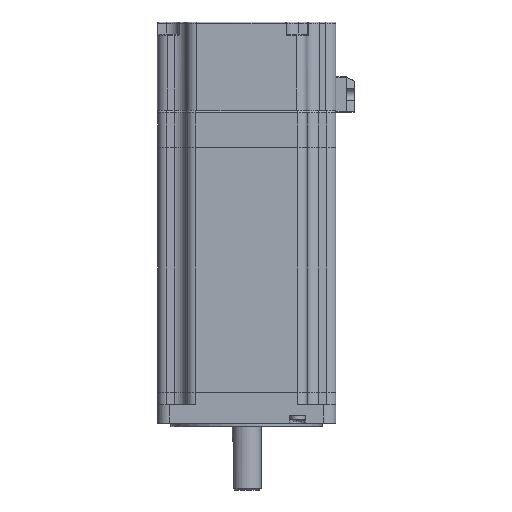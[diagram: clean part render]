
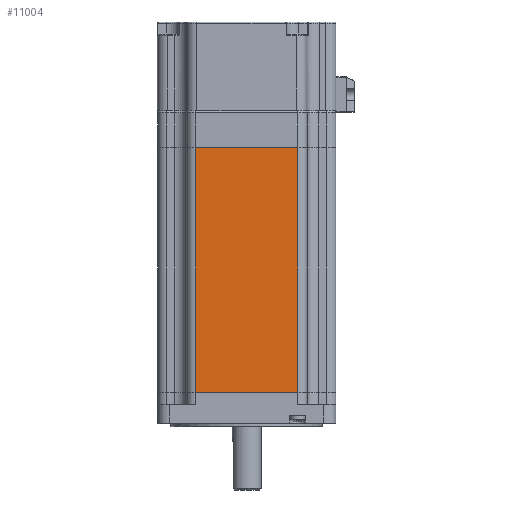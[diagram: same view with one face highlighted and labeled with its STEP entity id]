
A CAD part, left-side view. The second image highlights one B-rep face of the part: STEP entity #11004.
In plain terms, the highlighted planar face has unit normal (-1, 0, 0).
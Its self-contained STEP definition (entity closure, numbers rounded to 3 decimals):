
#41 = FACE_OUTER_BOUND ( 'NONE', #11755, .T. ) ;
#85 = DIRECTION ( 'NONE',  ( 0., 0., 1. ) ) ;
#529 = DIRECTION ( 'NONE',  ( 0., -1., 0. ) ) ;
#970 = DIRECTION ( 'NONE',  ( 0., -1., 0. ) ) ;
#1075 = VECTOR ( 'NONE', #13663, 1000. ) ;
#1272 = PLANE ( 'NONE',  #13739 ) ;
#1508 = LINE ( 'NONE', #9604, #14507 ) ;
#1997 = EDGE_CURVE ( 'NONE', #2620, #9694, #5440, .T. ) ;
#2236 = VECTOR ( 'NONE', #13480, 1000. ) ;
#2620 = VERTEX_POINT ( 'NONE', #7999 ) ;
#3290 = CARTESIAN_POINT ( 'NONE',  ( -42.925, 24.65, -118. ) ) ;
#3813 = CARTESIAN_POINT ( 'NONE',  ( -42.925, 24.65, 0. ) ) ;
#3853 = ORIENTED_EDGE ( 'NONE', *, *, #9650, .T. ) ;
#4040 = VECTOR ( 'NONE', #970, 1000. ) ;
#5440 = LINE ( 'NONE', #3290, #1075 ) ;
#5460 = ORIENTED_EDGE ( 'NONE', *, *, #1997, .F. ) ;
#6992 = DIRECTION ( 'NONE',  ( -1., 0., 0. ) ) ;
#7326 = ORIENTED_EDGE ( 'NONE', *, *, #9878, .F. ) ;
#7999 = CARTESIAN_POINT ( 'NONE',  ( -42.925, 24.65, -118. ) ) ;
#8035 = LINE ( 'NONE', #9984, #2236 ) ;
#8193 = LINE ( 'NONE', #11411, #4040 ) ;
#9154 = EDGE_CURVE ( 'NONE', #9385, #13559, #8035, .T. ) ;
#9158 = CARTESIAN_POINT ( 'NONE',  ( -42.925, -24.65, -118. ) ) ;
#9385 = VERTEX_POINT ( 'NONE', #9158 ) ;
#9604 = CARTESIAN_POINT ( 'NONE',  ( -42.925, -24.65, -118. ) ) ;
#9650 = EDGE_CURVE ( 'NONE', #2620, #9385, #1508, .T. ) ;
#9694 = VERTEX_POINT ( 'NONE', #3813 ) ;
#9878 = EDGE_CURVE ( 'NONE', #9694, #13559, #8193, .T. ) ;
#9984 = CARTESIAN_POINT ( 'NONE',  ( -42.925, -24.65, -118. ) ) ;
#10208 = CARTESIAN_POINT ( 'NONE',  ( -42.925, -24.65, 0. ) ) ;
#11004 = ADVANCED_FACE ( 'NONE', ( #41 ), #1272, .T. ) ;
#11411 = CARTESIAN_POINT ( 'NONE',  ( -42.925, -24.65, 0. ) ) ;
#11621 = CARTESIAN_POINT ( 'NONE',  ( -42.925, -24.65, -118. ) ) ;
#11755 = EDGE_LOOP ( 'NONE', ( #7326, #5460, #3853, #12910 ) ) ;
#12910 = ORIENTED_EDGE ( 'NONE', *, *, #9154, .T. ) ;
#13480 = DIRECTION ( 'NONE',  ( 0., 0., 1. ) ) ;
#13559 = VERTEX_POINT ( 'NONE', #10208 ) ;
#13663 = DIRECTION ( 'NONE',  ( 0., 0., 1. ) ) ;
#13739 = AXIS2_PLACEMENT_3D ( 'NONE', #11621, #6992, #85 ) ;
#14507 = VECTOR ( 'NONE', #529, 1000. ) ;
